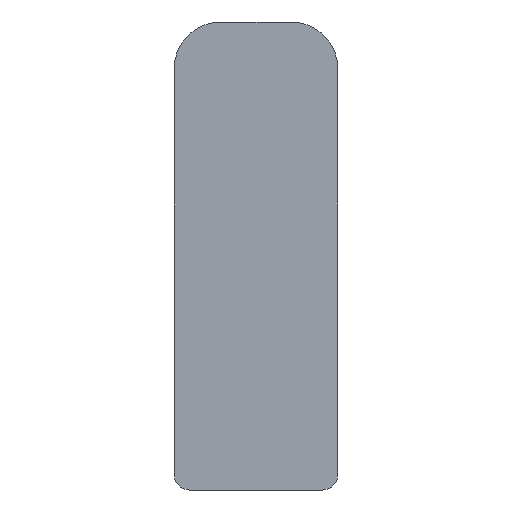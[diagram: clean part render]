
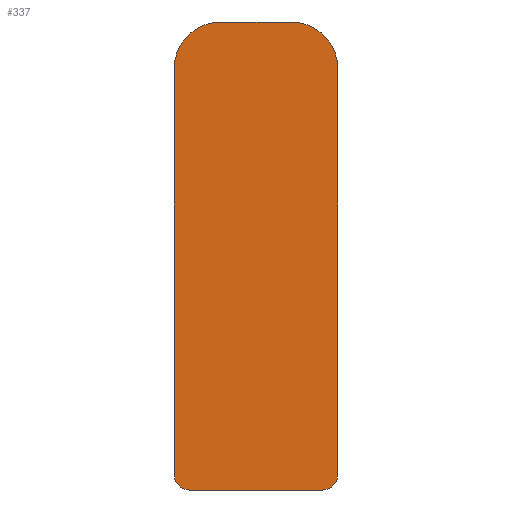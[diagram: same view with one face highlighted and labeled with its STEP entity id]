
A CAD part, left-side view. The second image highlights one B-rep face of the part: STEP entity #337.
In plain terms, the highlighted planar face has unit normal (-1, 0, 0).
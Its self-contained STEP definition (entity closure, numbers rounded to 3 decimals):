
#2 = VECTOR ( 'NONE', #306, 1000. ) ;
#4 = LINE ( 'NONE', #307, #2 ) ;
#5 = ORIENTED_EDGE ( 'NONE', *, *, #112, .T. ) ;
#7 = CIRCLE ( 'NONE', #108, 3. ) ;
#11 = ORIENTED_EDGE ( 'NONE', *, *, #137, .T. ) ;
#12 = ORIENTED_EDGE ( 'NONE', *, *, #135, .T. ) ;
#23 = LINE ( 'NONE', #327, #26 ) ;
#26 = VECTOR ( 'NONE', #326, 1000. ) ;
#33 = EDGE_LOOP ( 'NONE', ( #81, #82, #83, #84, #85, #5, #12, #11 ) ) ;
#39 = CIRCLE ( 'NONE', #110, 3. ) ;
#44 = VECTOR ( 'NONE', #248, 1000. ) ;
#45 = LINE ( 'NONE', #274, #44 ) ;
#81 = ORIENTED_EDGE ( 'NONE', *, *, #115, .T. ) ;
#82 = ORIENTED_EDGE ( 'NONE', *, *, #119, .T. ) ;
#83 = ORIENTED_EDGE ( 'NONE', *, *, #122, .T. ) ;
#84 = ORIENTED_EDGE ( 'NONE', *, *, #125, .T. ) ;
#85 = ORIENTED_EDGE ( 'NONE', *, *, #130, .T. ) ;
#97 = AXIS2_PLACEMENT_3D ( 'NONE', #225, #224, #222 ) ;
#104 = AXIS2_PLACEMENT_3D ( 'NONE', #279, #278, #277 ) ;
#106 = AXIS2_PLACEMENT_3D ( 'NONE', #297, #296, #295 ) ;
#108 = AXIS2_PLACEMENT_3D ( 'NONE', #316, #315, #314 ) ;
#110 = AXIS2_PLACEMENT_3D ( 'NONE', #219, #215, #213 ) ;
#112 = EDGE_CURVE ( 'NONE', #323, #301, #45, .T. ) ;
#115 = EDGE_CURVE ( 'NONE', #308, #280, #39, .T. ) ;
#119 = EDGE_CURVE ( 'NONE', #280, #317, #23, .T. ) ;
#122 = EDGE_CURVE ( 'NONE', #317, #305, #7, .T. ) ;
#125 = EDGE_CURVE ( 'NONE', #305, #284, #4, .T. ) ;
#130 = EDGE_CURVE ( 'NONE', #284, #323, #175, .T. ) ;
#135 = EDGE_CURVE ( 'NONE', #301, #294, #141, .T. ) ;
#137 = EDGE_CURVE ( 'NONE', #294, #308, #161, .T. ) ;
#141 = CIRCLE ( 'NONE', #104, 1. ) ;
#158 = FACE_OUTER_BOUND ( 'NONE', #33, .T. ) ;
#161 = LINE ( 'NONE', #273, #174 ) ;
#174 = VECTOR ( 'NONE', #272, 1000. ) ;
#175 = CIRCLE ( 'NONE', #106, 1. ) ;
#213 = DIRECTION ( 'NONE',  ( 0., 0., 1. ) ) ;
#215 = DIRECTION ( 'NONE',  ( -1., 0., 0. ) ) ;
#219 = CARTESIAN_POINT ( 'NONE',  ( -428.25, -2.25, 27. ) ) ;
#222 = DIRECTION ( 'NONE',  ( 0., 0., 1. ) ) ;
#224 = DIRECTION ( 'NONE',  ( -1., 0., 0. ) ) ;
#225 = CARTESIAN_POINT ( 'NONE',  ( -428.25, -2.25, 27. ) ) ;
#226 = PLANE ( 'NONE',  #97 ) ;
#248 = DIRECTION ( 'NONE',  ( 0., -1., 0. ) ) ;
#250 = CARTESIAN_POINT ( 'NONE',  ( -428.25, 4.25, 0. ) ) ;
#252 = CARTESIAN_POINT ( 'NONE',  ( -428.25, 2.25, 30. ) ) ;
#254 = CARTESIAN_POINT ( 'NONE',  ( -428.25, -5.25, 27. ) ) ;
#255 = CARTESIAN_POINT ( 'NONE',  ( -428.25, 5.25, 27. ) ) ;
#256 = CARTESIAN_POINT ( 'NONE',  ( -428.25, -4.25, 0. ) ) ;
#258 = CARTESIAN_POINT ( 'NONE',  ( -428.25, -5.25, 1. ) ) ;
#261 = CARTESIAN_POINT ( 'NONE',  ( -428.25, 5.25, 1. ) ) ;
#263 = CARTESIAN_POINT ( 'NONE',  ( -428.25, -2.25, 30. ) ) ;
#272 = DIRECTION ( 'NONE',  ( 0., 0., 1. ) ) ;
#273 = CARTESIAN_POINT ( 'NONE',  ( -428.25, -5.25, 1. ) ) ;
#274 = CARTESIAN_POINT ( 'NONE',  ( -428.25, -4.25, 0. ) ) ;
#277 = DIRECTION ( 'NONE',  ( 0., 0., -1. ) ) ;
#278 = DIRECTION ( 'NONE',  ( -1., 0., 0. ) ) ;
#279 = CARTESIAN_POINT ( 'NONE',  ( -428.25, -4.25, 1. ) ) ;
#280 = VERTEX_POINT ( 'NONE', #263 ) ;
#284 = VERTEX_POINT ( 'NONE', #261 ) ;
#294 = VERTEX_POINT ( 'NONE', #258 ) ;
#295 = DIRECTION ( 'NONE',  ( 0., 0., -1. ) ) ;
#296 = DIRECTION ( 'NONE',  ( -1., 0., 0. ) ) ;
#297 = CARTESIAN_POINT ( 'NONE',  ( -428.25, 4.25, 1. ) ) ;
#301 = VERTEX_POINT ( 'NONE', #256 ) ;
#305 = VERTEX_POINT ( 'NONE', #255 ) ;
#306 = DIRECTION ( 'NONE',  ( 0., 0., -1. ) ) ;
#307 = CARTESIAN_POINT ( 'NONE',  ( -428.25, 5.25, 1. ) ) ;
#308 = VERTEX_POINT ( 'NONE', #254 ) ;
#314 = DIRECTION ( 'NONE',  ( 0., 0., -1. ) ) ;
#315 = DIRECTION ( 'NONE',  ( -1., 0., 0. ) ) ;
#316 = CARTESIAN_POINT ( 'NONE',  ( -428.25, 2.25, 27. ) ) ;
#317 = VERTEX_POINT ( 'NONE', #252 ) ;
#323 = VERTEX_POINT ( 'NONE', #250 ) ;
#326 = DIRECTION ( 'NONE',  ( 0., 1., 0. ) ) ;
#327 = CARTESIAN_POINT ( 'NONE',  ( -428.25, -2.25, 30. ) ) ;
#337 = ADVANCED_FACE ( 'NONE', ( #158 ), #226, .T. ) ;
